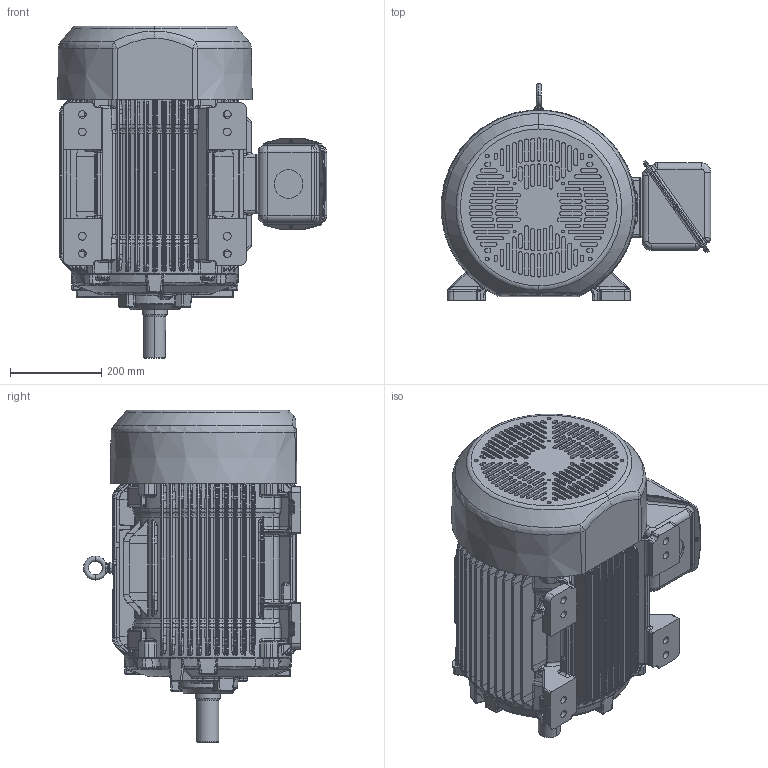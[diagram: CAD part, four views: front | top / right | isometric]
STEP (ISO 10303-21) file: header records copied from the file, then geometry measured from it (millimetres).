
FILE_DESCRIPTION((''),'2;1');
FILE_NAME('320_3D_ASM_ASM','2019-05-28T08:15:28',('EMD2341'),('Nidec Motor Corporation'),'CREO PARAMETRIC BY PTC INC, 2018300','CREO PARAMETRIC BY PTC INC, 2018300','');
FILE_SCHEMA(('CONFIG_CONTROL_DESIGN'));
Length unit declared in the file: inch
Products named in the file (10): 320_FOOTED_FRAME; 320_DE_BRKT; 0133166; 320_TS; 320_STL_FCVR; 320_STL_GSK_OBB; 320_STL_OBB; 320_STL_GSK_OBC; 320_STL_OBC; 320_3D_ASM_ASM
Assembly tree (9 placements, depth 2):
  320_3D_ASM_ASM
    320_FOOTED_FRAME
    320_DE_BRKT
    0133166
    320_TS
    320_STL_FCVR
    320_STL_GSK_OBB
    320_STL_OBB
    320_STL_GSK_OBC
    320_STL_OBC
Bounding box: 590.01 x 475.62 x 727.2 mm (x, y, z)
Volume: 76760475.9 mm3; surface area: 2744133.6 mm2
Topology: 9 solids, 10 shells, 4715 faces, 10742 edges, 6153 vertices
Faces by surface type: bspline 1960, cylinder 1075, plane 983, torus 314, extrusion 258, sphere 80, cone 45
Entity records: 212628 total; most frequent: CARTESIAN_POINT 119742, ORIENTED_EDGE 21480, DIRECTION 15827, EDGE_CURVE 10742, VERTEX_POINT 6153, AXIS2_PLACEMENT_3D 6024, EDGE_LOOP 4867, FACE_OUTER_BOUND 4715
